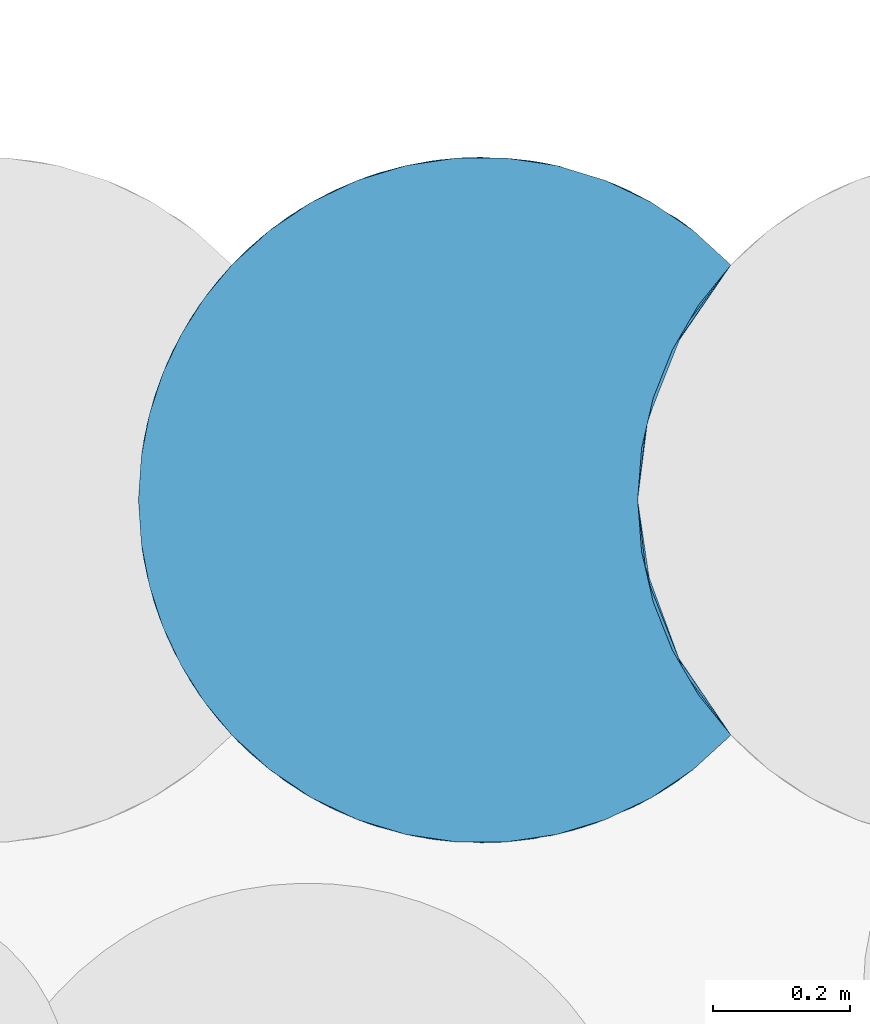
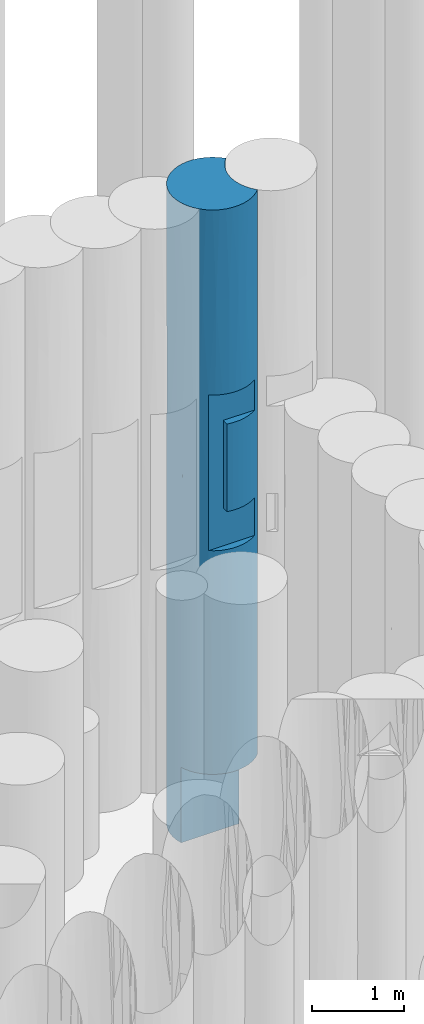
# One storey, part 71 of 104: 1 pile.
"""IFC2X3 building model written with IfcOpenShell, lengths in millimetres."""

from ifc_helpers import new_model, entity, si_unit, converted_unit, derived_unit, direction, frame, origin, place, context, subcontext, project, spatial, faceted_brep, source, transform, mapped, material, element, save


model = new_model("IFC2X3")

# Units and contexts
model_context = context("Model", 3, precision=0.01, world=origin(), true_north=direction((6.12303176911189e-17, 1.0)))
body_context = subcontext(model_context, "Body", "Model", "MODEL_VIEW")
ifc_project = project(units=[si_unit("LENGTHUNIT", "METRE", prefix="MILLI"), si_unit("AREAUNIT", "SQUARE_METRE", prefix="MILLI"), si_unit("VOLUMEUNIT", "CUBIC_METRE"), converted_unit("PLANEANGLEUNIT", "DEGREE", entity("IfcRatioMeasure", 0.0174532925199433), si_unit("PLANEANGLEUNIT", "RADIAN"), dimensions=[0, 0, 0, 0, 0, 0, 0]), si_unit("MASSUNIT", "GRAM", prefix="KILO"), derived_unit("MASSDENSITYUNIT", [(si_unit("MASSUNIT", "GRAM", prefix="KILO"), 1), (si_unit("LENGTHUNIT", "METRE"), -3)]), derived_unit("MOMENTOFINERTIAUNIT", [(si_unit("LENGTHUNIT", "METRE"), 4)]), si_unit("TIMEUNIT", "SECOND"), si_unit("FREQUENCYUNIT", "HERTZ"), si_unit("THERMODYNAMICTEMPERATUREUNIT", "DEGREE_CELSIUS"), derived_unit("THERMALTRANSMITTANCEUNIT", [(si_unit("MASSUNIT", "GRAM", prefix="KILO"), 1), (si_unit("THERMODYNAMICTEMPERATUREUNIT", "KELVIN"), -1), (si_unit("TIMEUNIT", "SECOND"), -3)]), derived_unit("VOLUMETRICFLOWRATEUNIT", [(si_unit("LENGTHUNIT", "METRE"), 3), (si_unit("TIMEUNIT", "SECOND"), -1)]), si_unit("ELECTRICCURRENTUNIT", "AMPERE"), si_unit("ELECTRICVOLTAGEUNIT", "VOLT"), si_unit("POWERUNIT", "WATT"), si_unit("FORCEUNIT", "NEWTON", prefix="KILO"), si_unit("ILLUMINANCEUNIT", "LUX"), si_unit("LUMINOUSFLUXUNIT", "LUMEN"), si_unit("LUMINOUSINTENSITYUNIT", "CANDELA"), derived_unit("USERDEFINED", [(si_unit("MASSUNIT", "GRAM", prefix="KILO"), -1), (si_unit("LENGTHUNIT", "METRE"), -2), (si_unit("TIMEUNIT", "SECOND"), 3), (si_unit("LUMINOUSFLUXUNIT", "LUMEN"), 1)]), derived_unit("LINEARVELOCITYUNIT", [(si_unit("LENGTHUNIT", "METRE"), 1), (si_unit("TIMEUNIT", "SECOND"), -1)]), si_unit("PRESSUREUNIT", "PASCAL"), derived_unit("USERDEFINED", [(si_unit("LENGTHUNIT", "METRE"), -2), (si_unit("MASSUNIT", "GRAM", prefix="KILO"), 1), (si_unit("TIMEUNIT", "SECOND"), -2)]), derived_unit("LINEARFORCEUNIT", [(si_unit("MASSUNIT", "GRAM", prefix="KILO"), 1), (si_unit("LENGTHUNIT", "METRE"), 1), (si_unit("TIMEUNIT", "SECOND"), -2), (si_unit("LENGTHUNIT", "METRE"), -1)]), derived_unit("PLANARFORCEUNIT", [(si_unit("MASSUNIT", "GRAM", prefix="KILO"), 1), (si_unit("LENGTHUNIT", "METRE"), 1), (si_unit("TIMEUNIT", "SECOND"), -2), (si_unit("LENGTHUNIT", "METRE"), -2)])], contexts=[model_context])

# Site, building, storey
site_placement = place(None, origin())
site = spatial("IfcSite", under=ifc_project, at=site_placement, Name="Theater aan de Parade", CompositionType="ELEMENT")
building_placement = place(site_placement, origin())
building = spatial("IfcBuilding", under=site, at=building_placement, Name="Theater aan de Parade", CompositionType="ELEMENT")
storey_placement = place(building_placement, frame((0.0, 0.0, -5520.0)))
storey = spatial("IfcBuildingStorey", under=building, at=storey_placement, Name="-2 kelder", CompositionType="ELEMENT", Elevation=-5520.0)

# Pile
ifc_material = material(Name="00_PBT_MAT_grout")
shared_shape = source(origin(), body_context, "Body", "Brep", [
    faceted_brep([(464.560582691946, 1000.22181762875, 0.0), (538.616668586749, 1000.22280478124, 0.0), (611.860911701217, 989.28522369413, 0.0), (682.686734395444, 967.648790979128, 0.0), (749.540520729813, 935.787802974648, 0.0), (810.955686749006, 894.400737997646, 0.0), (865.59527223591, 844.38383680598, 0.0), (818.150067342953, 785.695330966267, 0.0), (780.078223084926, 720.53458465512, 0.0), (752.247075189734, 650.386060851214, 0.0), (735.290660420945, 576.847851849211, 0.0), (729.595272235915, 501.595272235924, 0.0), (734.989632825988, 428.347327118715, 0.0), (751.055970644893, 356.68103265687, 0.0), (23.0559706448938, 356.68103265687, 0.0), (6.98989759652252, 428.345539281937, 0.0), (1.5952722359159, 501.595272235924, 0.0), (5.55623942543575, 564.406719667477, 0.0), (17.3678310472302, 626.189755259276, 0.0), (36.8430214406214, 686.000655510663, 0.0), (63.6725852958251, 742.891190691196, 0.0), (97.4346759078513, 795.966147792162, 0.0), (137.595794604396, 844.383899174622, 0.0), (192.227350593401, 894.394825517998, 0.0), (253.640398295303, 935.782306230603, 0.0), (320.492432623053, 967.644369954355, 0.0), (391.316996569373, 989.282366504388, 0.0), (865.59527223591, 844.38383680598, 1561.53794073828), (789.40132134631, 910.456713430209, 1491.00548248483), (799.657477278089, 903.041310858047, 2504.88210618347), (26.1639417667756, 656.401764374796, 1423.71039154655), (50.5548382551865, 717.378790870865, 815.522482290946), (716.704326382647, 952.957759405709, 974.743749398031), (575.441567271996, 996.111929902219, 1365.35911550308), (789.401320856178, 910.456713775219, 6978.99451100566), (810.955686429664, 894.400738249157, 8470.0), (865.59527223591, 844.38383680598, 6908.46275058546), (790.879670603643, 909.412065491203, 5813.01191791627), (865.59527223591, 844.38383680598, 5571.7337191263), (865.59527223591, 844.38383680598, 5346.92480984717), (538.616668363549, 1000.22280479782, 8470.0), (611.860911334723, 989.285223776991, 8470.0), (575.441567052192, 996.111929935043, 7150.26699538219), (36.7297114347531, 685.714826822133, 2307.62641859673), (64.0996250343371, 743.664598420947, 1628.37591838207), (222.166559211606, 916.227150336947, 956.748364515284), (355.503556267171, 979.776420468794, 1427.16858692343), (501.588606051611, 1001.59527219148, 2596.73325583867), (463.496981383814, 1000.14167953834, 1072.24580175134), (865.59527223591, 844.38383680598, 8470.0), (222.166558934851, 916.227150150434, 1972.30012717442), (217.544033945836, 913.074183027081, 3221.63866937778), (333.161300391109, 972.371224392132, 2861.22474137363), (286.475705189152, 952.952749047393, 7480.63704182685), (192.227350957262, 894.394825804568, 8470.0), (253.640398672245, 935.78230644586, 8470.0), (100.736484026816, 800.446793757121, 6793.03274327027), (163.989554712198, 870.407391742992, 7127.47212773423), (196.918801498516, 898.044825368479, 6218.94986965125), (785.426204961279, 913.226176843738, 4790.96227754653), (79.757522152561, 770.022008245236, 7621.93766369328), (63.6725852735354, 742.89119065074, 8470.0), (97.4346759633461, 795.966147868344, 8470.0), (692.579720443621, 963.682861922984, 4235.0), (794.511313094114, 906.811502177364, 3679.03770634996), (116.757578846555, 820.812987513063, 1364.08942331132), (716.704325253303, 952.957759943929, 6462.73277506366), (716.704325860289, 952.957759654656, 7495.25624707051), (716.704325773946, 952.957759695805, 2007.26721704), (36.8430215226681, 686.000655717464, 8470.0), (464.560582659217, 1000.22181762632, 8470.0), (682.686733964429, 967.648791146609, 8470.0), (749.540520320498, 935.787803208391, 8470.0), (1.5952722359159, 501.595272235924, 1058.75716887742), (1.5952722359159, 501.595272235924, 1561.53750746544), (286.475704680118, 952.952748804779, 4235.0), (286.475704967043, 952.952748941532, 6434.30301971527), (236.846141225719, 925.750783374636, 5334.65151001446), (13.5254225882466, 610.167008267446, 7372.75274235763), (17.3678311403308, 626.189755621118, 8470.0), (150.377453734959, 857.468907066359, 2562.89631213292), (79.7181549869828, 769.960131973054, 2632.86902156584), (49.3623188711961, 714.868233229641, 6938.44019104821), (712.525517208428, 954.925650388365, 3129.72297922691), (501.588606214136, 1001.59527219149, 5873.26673738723), (569.755285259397, 996.927698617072, 4755.12996065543), (476.322275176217, 1000.95613936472, 5007.14730889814), (391.316996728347, 989.28236654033, 8470.0), (427.735977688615, 996.109988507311, 7104.64110728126), (9.23358182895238, 588.658271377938, 2342.30656064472), (116.757578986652, 820.812987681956, 5893.90174013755), (33.0262183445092, 676.074616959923, 5347.10350774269), (137.605579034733, 844.3947810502, 8470.0), (438.38163008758, 997.583211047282, 3963.78240309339), (320.492432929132, 967.644370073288, 8470.0), (43.0784257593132, 701.000140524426, 4473.88274990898), (11.2142039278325, 599.198591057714, 4667.65803343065), (1.5952722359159, 501.595272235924, 8470.0), (5.55623942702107, 564.406719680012, 8470.0), (9.51542927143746, 590.237407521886, 5495.65544289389), (116.185815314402, 820.122430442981, 3373.1842670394), (182.11813440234, 886.217630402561, 4288.45203817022), (591.824887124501, 993.386504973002, 3489.10403538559), (18.4305593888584, 630.249305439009, 6406.00282362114), (1.5952722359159, 501.595272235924, 2117.50286755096), (1.5952722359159, 501.595272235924, 3123.07501493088), (616.099631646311, 988.30745790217, 2440.53317146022), (386.192771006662, 988.095285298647, 6175.64873710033), (381.51979902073, 986.963051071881, 5169.51578005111), (613.759023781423, 988.852178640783, 6106.01087867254), (692.700363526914, 963.6329807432, 5361.94747271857), (75.4806634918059, 763.179561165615, 5112.4389697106), (135.725798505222, 842.38777243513, 5005.62909266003), (62.9697281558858, 741.611171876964, 3455.71179201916), (97.3058699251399, 795.789220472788, 4263.74923889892), (26.3526093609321, 656.979992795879, 3676.29325435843), (1.5952722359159, 501.595272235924, 3176.2485662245), (1.5952722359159, 501.595272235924, 4234.99353122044), (865.59527223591, 844.38383680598, 3123.07588147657), (865.59527223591, 844.38383680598, 2898.27009289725), (865.59527223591, 844.38383680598, 4235.00034566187), (1.5952722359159, 501.595272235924, 5346.92498506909), (1.5952722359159, 501.595272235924, 5571.73182473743), (1.5952722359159, 501.595272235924, 6908.46249253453), (9.64635078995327, 412.229402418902, 1740.22189428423), (467.536034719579, 2.75665270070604, 3960.0), (535.531507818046, 2.74826972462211, 2923.29204410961), (535.652360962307, 2.75650599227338, 3960.0), (23.0559706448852, 356.681032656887, 1000.0), (286.47570551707, 50.2377952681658, 7267.64927121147), (253.640398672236, 67.4082380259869, 8470.0), (192.227350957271, 108.795718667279, 8470.0), (391.312227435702, 13.9092564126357, 1000.0), (346.352770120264, 26.306133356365, 1948.88026451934), (320.484188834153, 35.5493780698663, 1000.0), (79.7181554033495, 233.230411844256, 7559.63491729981), (137.605579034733, 158.795763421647, 8470.0), (97.4346759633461, 207.224396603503, 8470.0), (32.2090199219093, 329.326452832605, 2204.61529178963), (68.8651327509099, 251.106497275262, 1000.0), (118.439637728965, 180.360529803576, 2386.19848820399), (603.136611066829, 12.0144755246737, 3960.0), (8.81751859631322, 416.918914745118, 2646.87500001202), (5.55623942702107, 438.783824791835, 8470.0), (26.1639420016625, 346.788779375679, 7201.03028685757), (17.3678311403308, 377.000788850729, 8470.0), (14.4149384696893, 389.099395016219, 3705.62500005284), (100.558387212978, 202.982786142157, 1000.0), (137.595272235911, 158.806707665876, 1000.0), (55.153250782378, 276.451936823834, 3318.42122771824), (433.636087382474, 6.23525245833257, 2482.77388789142), (611.860911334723, 13.9053206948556, 8470.0), (538.616668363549, 2.96773967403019, 8470.0), (538.620075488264, 2.96799265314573, 7434.87131925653), (334.721913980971, 30.2638789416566, 2924.25646367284), (781.015426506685, 86.9576263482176, 7287.74265816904), (749.540520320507, 67.4027412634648, 8470.0), (682.68673396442, 35.5417533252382, 8470.0), (242.235967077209, 74.1227575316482, 2494.07525995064), (253.629698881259, 67.4143486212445, 1000.0), (464.559880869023, 2.96877897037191, 1000.0), (192.215508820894, 108.805045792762, 1000.0), (334.452867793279, 30.3592203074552, 3960.0), (400.051826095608, 12.0149125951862, 3960.0), (213.720794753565, 92.7820077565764, 3960.0), (271.955897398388, 57.4491729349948, 3960.0), (29.9326481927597, 335.660438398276, 4903.36557309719), (427.735978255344, 7.0805558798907, 7268.5552691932), (391.316996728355, 13.9081779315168, 8470.0), (320.492432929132, 35.5461743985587, 8470.0), (63.6725852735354, 260.299353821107, 8470.0), (36.8430215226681, 317.189888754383, 8470.0), (213.720794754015, 92.7820077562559, 6020.0), (279.558542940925, 53.6000815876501, 6020.0), (75.6904967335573, 239.669477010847, 5519.99565303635), (142.56550663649, 153.60442837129, 5505.0), (148.072190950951, 148.011574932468, 6362.25527219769), (119.765340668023, 178.785880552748, 3475.9878957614), (31.1680313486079, 332.18980883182, 6056.3249096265), (79.7181554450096, 233.230411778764, 6604.44114999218), (163.989554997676, 132.783152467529, 7198.38299068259), (213.72079475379, 92.7820077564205, 4990.0), (105.373424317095, 196.622737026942, 4545.39929641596), (350.609564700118, 24.9367822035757, 6020.0), (425.205629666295, 7.4651046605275, 6020.0), (522.4609040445, 2.03083654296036, 1959.65614084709), (538.620125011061, 2.96799633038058, 1000.0), (464.560582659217, 2.96872684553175, 8470.0), (647.674955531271, 23.4104480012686, 7268.21385889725), (577.984914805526, 7.4651046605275, 6020.0), (467.143080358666, 2.78363797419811, 5620.0), (399.595269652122, 12.1098286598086, 5620.0), (399.595269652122, 12.1098286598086, 4460.0), (682.696772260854, 35.5456539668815, 1000.0), (636.249215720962, 20.0682060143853, 2487.54782148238), (611.86810266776, 13.9069466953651, 1000.0), (760.954269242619, 74.122570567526, 3085.19221489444), (731.234006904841, 57.4488419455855, 3960.0), (668.73632211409, 30.3587398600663, 3960.0), (781.027202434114, 86.9655622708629, 2182.18462678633), (501.595272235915, 1.59527223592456, 6020.0), (535.342200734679, 2.73542737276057, 4460.0), (602.908303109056, 11.9671789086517, 4460.0), (602.891913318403, 11.9637878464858, 5620.0), (723.632001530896, 53.6000815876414, 6020.0), (652.580979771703, 24.9367822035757, 6020.0), (789.469749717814, 92.7820077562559, 6020.0), (865.59527223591, 158.806707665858, 6602.49999999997), (668.589819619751, 30.3068030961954, 4460.0), (668.572777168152, 30.3007646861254, 5620.0), (810.967462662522, 108.799081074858, 1000.0), (749.5521658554, 67.40939164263, 1000.0), (865.59527223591, 158.806707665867, 6908.48300862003), (865.59527223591, 158.806707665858, 7536.24999999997), (865.59527223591, 158.806707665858, 1933.74999999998), (865.59527223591, 158.806707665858, 2867.49999999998), (789.469749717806, 92.7820077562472, 4460.0), (789.469749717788, 92.7820077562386, 3960.0), (865.59527223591, 158.806707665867, 3648.28895539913), (865.59527223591, 158.806707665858, 3801.24999999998), (865.59527223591, 158.806707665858, 4735.0), (865.59527223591, 158.806707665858, 5668.74999999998), (865.59527223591, 158.806707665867, 5821.74150431), (789.469749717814, 92.7820077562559, 5620.0), (731.148856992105, 57.4048269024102, 5620.0), (731.164968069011, 57.4131533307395, 4460.0), (810.955686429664, 108.78980622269, 8470.0), (467.148351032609, 2.78327396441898, 4460.0), (535.330561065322, 2.73464010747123, 5620.0), (42.9242829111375, 302.54521935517, 1000.0), (865.59527223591, 158.806707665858, 8470.0), (865.59527223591, 158.806707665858, 1000.0), (865.59527223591, 158.806707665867, 2561.54745108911), (818.150067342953, 217.49521350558, 8470.0), (780.078223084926, 282.655959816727, 8470.0), (752.247075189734, 352.804483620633, 8470.0), (735.290660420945, 426.342692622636, 8470.0), (729.595272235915, 501.595272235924, 8470.0), (735.290660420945, 576.847851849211, 8470.0), (752.247075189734, 650.386060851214, 8470.0), (780.078223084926, 720.53458465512, 8470.0), (818.150067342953, 785.695330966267, 8470.0), (742.379444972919, 613.937328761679, 959.062888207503), (738.151011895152, 593.695972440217, 6638.44327873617), (742.379444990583, 613.937328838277, 7510.93711044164), (729.595272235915, 501.595272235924, 6908.4597613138), (808.6817168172, 771.468907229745, 6638.44327726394), (781.985001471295, 724.40695394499, 5169.28730842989), (797.88300515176, 753.834282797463, 959.062888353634), (764.837270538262, 685.986160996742, 1706.36651512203), (797.88300519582, 753.834282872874, 7510.93711014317), (729.595272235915, 501.595272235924, 1561.54023868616), (729.595272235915, 501.595272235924, 1058.75298998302), (808.681716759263, 771.468907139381, 1831.5567211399), (778.799150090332, 717.888721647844, 2630.65322090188), (766.296890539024, 689.62348691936, 3566.6344277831), (739.967026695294, 602.90756748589, 2500.19182196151), (729.595272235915, 501.595272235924, 3123.08047737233), (729.595272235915, 501.595272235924, 2117.50597996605), (764.837270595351, 685.986161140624, 6763.63348211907), (798.309538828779, 754.56289103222, 4260.62631723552), (810.907944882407, 774.909966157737, 3324.34692372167), (745.175048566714, 625.438103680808, 5612.66192558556), (744.930852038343, 624.47895624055, 4544.29323307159), (738.502483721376, 595.552033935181, 3413.30504808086), (729.595272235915, 501.595272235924, 4235.01242423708), (729.595272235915, 501.595272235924, 5571.72573206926), (729.595272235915, 501.595272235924, 5346.93194686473), (729.595272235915, 501.595272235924, 3176.24701001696), (737.652631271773, 412.194835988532, 1740.61215192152), (796.86362242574, 251.109106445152, 1977.49082641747), (808.103941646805, 232.6249053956, 2870.31406883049), (817.383474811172, 218.608639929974, 1000.0), (751.055970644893, 356.68103265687, 1000.0), (797.883005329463, 249.356261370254, 7510.93711074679), (762.458274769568, 323.317327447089, 4903.36557316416), (741.179889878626, 394.588663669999, 5988.20523574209), (778.685121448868, 285.53964070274, 5822.23176538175), (742.379445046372, 389.253215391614, 7510.93711054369), (764.837270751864, 317.204382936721, 6763.63348277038), (808.681717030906, 231.721636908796, 6638.4432792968), (736.645152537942, 417.928196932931, 2646.87500001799), (763.601591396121, 320.349887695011, 2739.79071288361), (778.900945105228, 285.089790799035, 1000.0), (736.819640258, 416.906568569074, 5098.3280587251), (739.996017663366, 400.142968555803, 3705.62500000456), (776.673795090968, 289.788436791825, 3825.90126919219), (807.285378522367, 233.91196369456, 5061.92209300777), (399.595269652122, 92.7820077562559, 5620.0), (399.595269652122, 92.7820077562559, 4460.0)], [[[0, 1, 2, 3, 4, 5, 6, 7, 8, 9, 10, 11, 12, 13, 14, 15, 16, 17, 18, 19, 20, 21, 22, 23, 24, 25, 26]], [[27, 28, 29]], [[18, 30, 31]], [[4, 3, 32]], [[32, 2, 33]], [[34, 35, 36]], [[37, 36, 38, 39]], [[40, 41, 42]], [[30, 43, 44]], [[45, 46, 25]], [[47, 33, 48]], [[6, 5, 27]], [[35, 49, 36]], [[1, 48, 33]], [[26, 46, 48]], [[50, 51, 52]], [[53, 54, 55]], [[56, 57, 58]], [[37, 39, 59]], [[28, 5, 32]], [[60, 61, 62]], [[63, 59, 64]], [[25, 46, 26]], [[45, 22, 65]], [[24, 23, 45]], [[66, 67, 34]], [[28, 32, 68]], [[25, 24, 45]], [[69, 61, 60]], [[70, 40, 42]], [[67, 71, 72]], [[0, 48, 1]], [[42, 41, 67]], [[17, 16, 73, 74]], [[52, 51, 75]], [[58, 76, 77]], [[31, 21, 20]], [[69, 78, 79]], [[1, 33, 2]], [[65, 50, 45]], [[31, 19, 18]], [[80, 65, 81]], [[78, 69, 82]], [[64, 29, 83]], [[17, 74, 30]], [[84, 85, 86]], [[53, 87, 88]], [[30, 74, 89]], [[30, 18, 17]], [[42, 84, 88]], [[82, 90, 91]], [[57, 60, 92]], [[4, 32, 5]], [[88, 87, 70]], [[52, 93, 47]], [[94, 53, 55]], [[95, 96, 91]], [[42, 88, 70]], [[97, 98, 78]], [[54, 53, 57]], [[92, 54, 57]], [[91, 96, 99]], [[51, 100, 101]], [[102, 63, 83]], [[57, 56, 60]], [[44, 31, 30]], [[99, 103, 91]], [[78, 98, 79]], [[50, 52, 46]], [[65, 22, 21]], [[89, 74, 104, 105]], [[75, 101, 77]], [[106, 33, 47]], [[33, 68, 32]], [[42, 67, 66]], [[107, 84, 108]], [[88, 76, 53]], [[67, 41, 71]], [[109, 42, 66]], [[53, 94, 87]], [[57, 53, 76]], [[32, 3, 2]], [[45, 23, 22]], [[46, 45, 50]], [[67, 72, 35]], [[106, 83, 68]], [[110, 66, 37]], [[111, 90, 112]], [[95, 91, 111]], [[51, 101, 75]], [[100, 113, 114]], [[93, 52, 75]], [[47, 46, 52]], [[108, 93, 75]], [[102, 85, 63]], [[89, 43, 30]], [[115, 105, 116, 117]], [[29, 28, 68]], [[5, 28, 27]], [[83, 29, 68]], [[29, 118, 119, 27]], [[102, 106, 47]], [[59, 39, 120]], [[47, 93, 102]], [[108, 86, 93]], [[93, 85, 102]], [[110, 109, 66]], [[110, 59, 63]], [[118, 64, 120]], [[59, 120, 64]], [[63, 85, 110]], [[109, 85, 84]], [[85, 109, 110]], [[42, 109, 84]], [[29, 64, 118]], [[64, 83, 63]], [[110, 37, 59]], [[37, 66, 34]], [[35, 34, 67]], [[37, 34, 36]], [[77, 108, 75]], [[88, 107, 76]], [[83, 106, 102]], [[33, 106, 68]], [[80, 51, 50]], [[80, 100, 51]], [[114, 112, 101]], [[57, 76, 58]], [[77, 101, 112]], [[108, 77, 76]], [[65, 80, 50]], [[100, 80, 81]], [[113, 100, 81]], [[101, 100, 114]], [[43, 113, 81]], [[113, 115, 95]], [[111, 112, 114]], [[112, 90, 58]], [[114, 113, 95]], [[90, 111, 91]], [[114, 95, 111]], [[117, 96, 115]], [[99, 96, 121]], [[115, 96, 95]], [[121, 96, 117]], [[99, 121, 122, 123]], [[123, 78, 103]], [[112, 58, 77]], [[56, 58, 90]], [[103, 78, 82]], [[78, 123, 97]], [[91, 103, 82]], [[123, 103, 99]], [[105, 115, 89]], [[115, 113, 43]], [[115, 43, 89]], [[44, 81, 65]], [[81, 44, 43]], [[65, 21, 31]], [[65, 31, 44]], [[19, 31, 20]], [[90, 82, 56]], [[60, 56, 82]], [[60, 82, 69]], [[60, 62, 92]], [[26, 48, 0]], [[47, 48, 46]], [[93, 86, 85]], [[108, 84, 86]], [[84, 107, 88]], [[108, 76, 107]], [[124, 104, 74, 73]], [[125, 126, 127]], [[15, 14, 128]], [[129, 130, 131]], [[132, 133, 134]], [[135, 136, 137]], [[138, 139, 140]], [[141, 127, 126]], [[142, 116, 105, 104]], [[143, 144, 145]], [[146, 117, 116]], [[147, 148, 140]], [[140, 149, 138]], [[128, 124, 73]], [[133, 132, 150]], [[151, 152, 153]], [[133, 150, 154]], [[155, 156, 157]], [[158, 159, 133]], [[132, 160, 150]], [[161, 159, 158]], [[140, 161, 158]], [[162, 154, 163]], [[164, 158, 165]], [[154, 165, 158]], [[161, 140, 148]], [[165, 154, 162]], [[138, 142, 124]], [[166, 122, 121, 117]], [[167, 168, 169]], [[135, 170, 171]], [[172, 173, 129]], [[174, 175, 176]], [[143, 97, 123]], [[135, 171, 144]], [[140, 177, 149]], [[144, 171, 145]], [[178, 144, 123]], [[166, 174, 178]], [[179, 135, 144]], [[170, 135, 137]], [[180, 136, 135]], [[176, 175, 172]], [[175, 181, 172]], [[131, 136, 180]], [[181, 175, 182]], [[131, 180, 129]], [[174, 166, 182]], [[183, 184, 167]], [[133, 159, 134]], [[122, 166, 178]], [[185, 160, 186]], [[158, 164, 177]], [[149, 177, 182]], [[124, 142, 104]], [[130, 129, 169]], [[168, 167, 187]], [[129, 167, 169]], [[188, 153, 189]], [[15, 128, 73]], [[183, 167, 129]], [[142, 138, 149]], [[190, 191, 192]], [[172, 129, 180]], [[193, 194, 195]], [[182, 175, 174]], [[125, 163, 150]], [[185, 126, 150]], [[141, 126, 194]], [[125, 150, 126]], [[180, 135, 179]], [[126, 185, 194]], [[196, 197, 198]], [[193, 199, 194]], [[183, 129, 173]], [[200, 167, 184]], [[201, 202, 203]], [[204, 188, 205]], [[206, 207, 155]], [[208, 209, 202]], [[141, 194, 198]], [[185, 195, 194]], [[210, 199, 211]], [[144, 178, 179]], [[155, 207, 212, 213]], [[182, 164, 181]], [[146, 116, 142]], [[210, 214, 199]], [[215, 196, 199]], [[123, 122, 178]], [[166, 146, 149]], [[196, 194, 199]], [[216, 217, 215, 218, 219, 220, 221, 222, 207, 206, 223]], [[146, 166, 117]], [[196, 198, 194]], [[224, 208, 225]], [[155, 213, 226]], [[211, 199, 193]], [[142, 149, 146]], [[223, 225, 216]], [[190, 227, 228]], [[227, 190, 192]], [[140, 139, 147]], [[228, 227, 201]], [[149, 182, 166]], [[167, 153, 187]], [[200, 189, 153]], [[205, 188, 189]], [[179, 178, 174]], [[151, 188, 157]], [[187, 153, 152]], [[180, 179, 176]], [[201, 203, 228]], [[123, 144, 143]], [[206, 155, 204]], [[139, 138, 229]], [[203, 202, 209]], [[224, 209, 208]], [[128, 229, 138]], [[174, 176, 179]], [[155, 157, 188]], [[156, 155, 226]], [[230, 226, 213]], [[188, 204, 155]], [[215, 217, 196]], [[197, 196, 217]], [[225, 223, 224]], [[16, 15, 73]], [[163, 154, 150]], [[172, 180, 176]], [[158, 133, 154]], [[138, 124, 128]], [[160, 185, 150]], [[185, 186, 195]], [[200, 153, 167]], [[151, 153, 188]], [[214, 210, 231]], [[199, 214, 232, 215]], [[158, 177, 140]], [[164, 182, 177]], [[72, 71, 41, 40, 70, 87, 94, 55, 54, 92, 62, 61, 69, 79, 98, 97, 143, 145, 171, 170, 137, 136, 131, 130, 169, 168, 187, 152, 151, 157, 156, 226, 230, 233, 234, 235, 236, 237, 238, 239, 240, 241, 49, 35]], [[10, 9, 242]], [[243, 244, 245]], [[38, 246, 247]], [[242, 248, 249]], [[6, 248, 7]], [[242, 9, 8, 248]], [[250, 36, 49]], [[27, 248, 6]], [[242, 251, 252, 11]], [[245, 244, 237]], [[238, 237, 244]], [[249, 248, 253]], [[254, 255, 256]], [[256, 257, 258, 251]], [[241, 240, 250]], [[244, 259, 250]], [[254, 253, 119]], [[260, 255, 261]], [[244, 250, 240, 239]], [[239, 238, 244]], [[8, 7, 248]], [[262, 263, 247]], [[10, 242, 11]], [[251, 242, 256]], [[259, 244, 243]], [[241, 250, 49]], [[36, 250, 246]], [[119, 261, 254]], [[253, 248, 27]], [[264, 256, 255]], [[263, 264, 255]], [[250, 259, 246]], [[249, 253, 254]], [[253, 27, 119]], [[38, 36, 246]], [[249, 254, 256]], [[261, 255, 254]], [[242, 249, 256]], [[264, 257, 256]], [[260, 263, 255]], [[261, 119, 118, 120]], [[263, 265, 264]], [[260, 261, 120]], [[247, 259, 262]], [[243, 245, 266, 267]], [[260, 120, 39, 38]], [[246, 259, 247]], [[38, 247, 260]], [[260, 247, 263]], [[243, 267, 262]], [[263, 262, 267]], [[243, 262, 259]], [[264, 265, 268, 257]], [[263, 267, 265]], [[269, 252, 251, 258]], [[232, 270, 271]], [[272, 270, 231]], [[13, 12, 273]], [[233, 230, 274]], [[269, 273, 252]], [[275, 276, 277]], [[278, 245, 237]], [[236, 235, 278]], [[279, 274, 280]], [[281, 282, 269]], [[272, 283, 270]], [[269, 282, 270]], [[234, 274, 278, 235]], [[270, 232, 214, 231]], [[274, 279, 278]], [[281, 258, 257, 268]], [[273, 270, 283]], [[271, 270, 282]], [[276, 275, 284]], [[265, 285, 268]], [[280, 274, 212]], [[234, 233, 274]], [[274, 230, 213, 212]], [[236, 278, 237]], [[245, 278, 276]], [[276, 266, 245]], [[282, 286, 271]], [[279, 277, 276]], [[286, 220, 219, 218]], [[286, 287, 220]], [[286, 218, 271]], [[286, 282, 285]], [[271, 218, 215, 232]], [[285, 284, 275]], [[281, 268, 285]], [[286, 285, 275]], [[258, 281, 269]], [[282, 281, 285]], [[252, 273, 12]], [[270, 273, 269]], [[279, 280, 277]], [[252, 12, 11]], [[277, 280, 222]], [[277, 222, 287]], [[280, 212, 207, 222]], [[287, 275, 277]], [[278, 279, 276]], [[284, 266, 276]], [[275, 287, 286]], [[287, 222, 221, 220]], [[284, 265, 267, 266]], [[265, 284, 285]], [[229, 128, 273, 283, 272, 231, 210, 211, 193, 195, 186, 160, 132, 134, 159, 161, 148, 147, 139]], [[128, 14, 13, 273]], [[190, 228, 203, 209, 224, 223, 288, 191]], [[200, 184, 183, 173, 172, 206, 204, 205, 189]], [[217, 216, 289, 288, 223, 206, 172, 181, 164]], [[162, 163, 125, 127, 141, 198, 197, 217, 164, 165]], [[192, 191, 288, 289]], [[289, 216, 225, 208, 202, 201, 227, 192]]]),
])
pile_placement = place(storey_placement, frame((40704.2628578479, 43807.2179922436, -3840.0)))
element("IfcPile", 1, at=pile_placement, inside=storey, material=ifc_material, Name="17_PBT_SFO_grondkering_rond:Ø1000 (grondkering)", ObjectType="17_PBT_SFO_grondkering_rond:Ø1000 (grondkering)", PredefinedType="NOTDEFINED", context=body_context, shape_type="MappedRepresentation", body=[
    mapped(shared_shape, transform((0.0, 0.0, 0.0), scale=1.0)),
])

save(model, "model.ifc")
